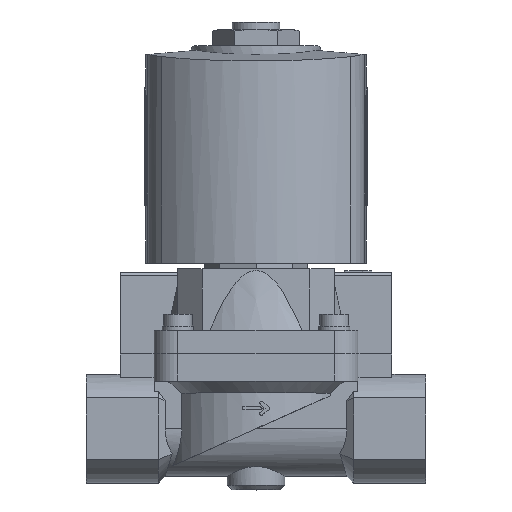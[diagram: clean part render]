
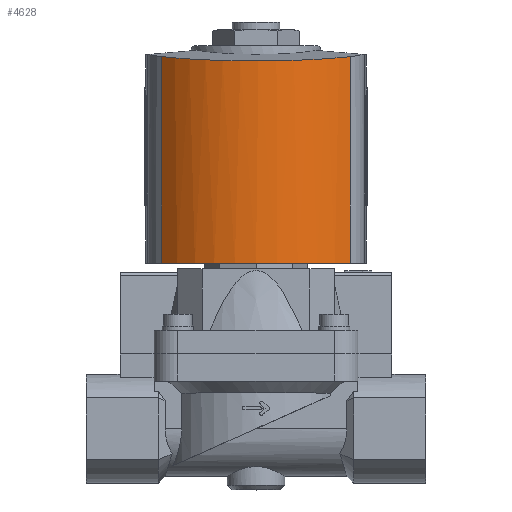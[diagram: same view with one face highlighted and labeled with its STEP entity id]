
A CAD part, top view. The second image highlights one B-rep face of the part: STEP entity #4628.
In plain terms, the highlighted cylindrical face has radius 37.5 mm (diameter 75 mm), a partial arc.
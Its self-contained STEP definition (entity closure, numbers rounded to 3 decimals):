
#372=CIRCLE('',#5764,37.5);
#704=LINE('',#8494,#1126);
#705=LINE('',#8500,#1127);
#1126=VECTOR('',#6868,1000.);
#1127=VECTOR('',#6875,1000.);
#2277=ORIENTED_EDGE('',*,*,#3141,.F.);
#2278=ORIENTED_EDGE('',*,*,#3133,.T.);
#2279=ORIENTED_EDGE('',*,*,#3142,.T.);
#2280=ORIENTED_EDGE('',*,*,#3136,.F.);
#3133=EDGE_CURVE('',#3648,#3647,#704,.T.);
#3136=EDGE_CURVE('',#3649,#3650,#705,.T.);
#3141=EDGE_CURVE('',#3648,#3649,#3747,.T.);
#3142=EDGE_CURVE('',#3647,#3650,#372,.T.);
#3647=VERTEX_POINT('',#8493);
#3648=VERTEX_POINT('',#8495);
#3649=VERTEX_POINT('',#8499);
#3650=VERTEX_POINT('',#8501);
#3747=ELLIPSE('',#5762,37.707,37.5);
#3978=EDGE_LOOP('',(#2277,#2278,#2279,#2280));
#4294=FACE_BOUND('',#3978,.T.);
#4435=CYLINDRICAL_SURFACE('',#5763,37.5);
#4628=ADVANCED_FACE('',(#4294),#4435,.T.);
#5762=AXIS2_PLACEMENT_3D('',#8509,#6890,#6891);
#5763=AXIS2_PLACEMENT_3D('',#8510,#6892,#6893);
#5764=AXIS2_PLACEMENT_3D('',#8511,#6894,#6895);
#6868=DIRECTION('',(0.,-1.,0.));
#6875=DIRECTION('',(0.,-1.,0.));
#6890=DIRECTION('',(0.105,0.995,0.));
#6891=DIRECTION('',(0.995,-0.105,0.));
#6892=DIRECTION('',(0.,-1.,0.));
#6893=DIRECTION('',(0.,0.,-1.));
#6894=DIRECTION('',(0.,1.,0.));
#6895=DIRECTION('',(1.,0.,0.));
#8493=CARTESIAN_POINT('',(25.21,-38.8,27.762));
#8494=CARTESIAN_POINT('',(25.21,23.9,27.762));
#8495=CARTESIAN_POINT('',(25.21,21.986,27.762));
#8499=CARTESIAN_POINT('',(25.21,21.986,-27.762));
#8500=CARTESIAN_POINT('',(25.21,23.9,-27.762));
#8501=CARTESIAN_POINT('',(25.21,-38.8,-27.762));
#8509=CARTESIAN_POINT('',(0.,24.636,0.));
#8510=CARTESIAN_POINT('',(0.,23.9,0.));
#8511=CARTESIAN_POINT('',(0.,-38.8,0.));
